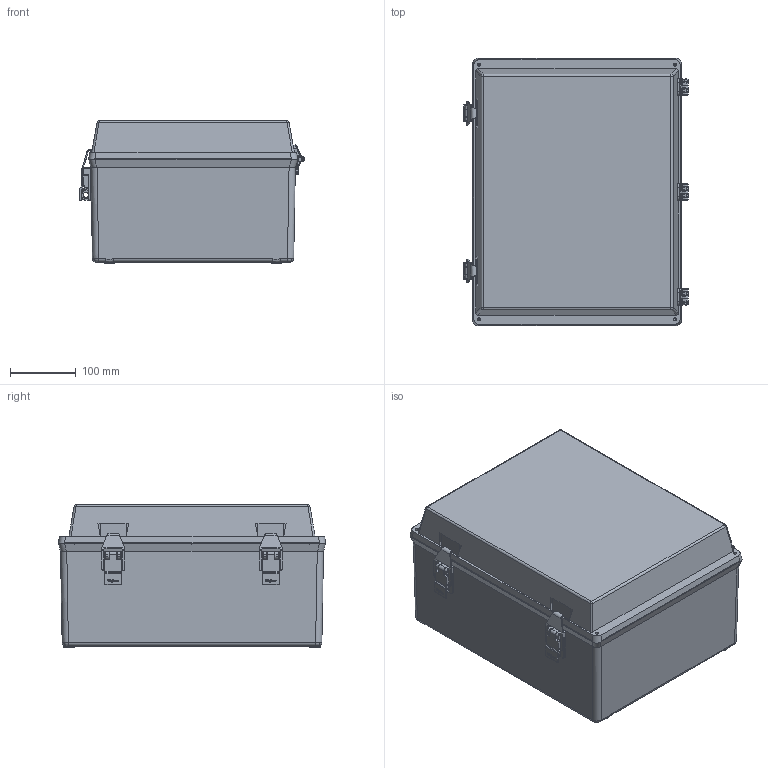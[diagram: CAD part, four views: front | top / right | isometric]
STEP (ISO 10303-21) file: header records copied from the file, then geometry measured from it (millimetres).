
FILE_DESCRIPTION (( 'STEP AP203' ), '1' );
FILE_NAME ('a16128jfgqrr.STEP', '2019-12-20T16:09:40', ( '' ), ( '' ), 'SwSTEP 2.0', 'SolidWorks 2016', '' );
FILE_SCHEMA (( 'CONFIG_CONTROL_DESIGN' ));
Length unit declared in the file: inch
Products named in the file (15): 87789763; 23249001; 87789765; 87789761; 89102462_WITH HOLE; 23247001; 87923492_WITH HOLES; 14241007_14241007; 87923476_WITH HOLE; 87789767; 89102475; 23149001; a16128jfgqrr; 89102515_BBD; 23248001
Assembly tree (18 placements, depth 4):
  a16128jfgqrr
    89102515_BBD
      87923492_WITH HOLES
      89102462_WITH HOLE
        87923476_WITH HOLE
        89102475
      23249001  x3
        23247001
        23248001
        23149001
      87789767  x2
        87789765
        87789763
        87789761
        14241007_14241007
Bounding box: 342.21 x 407 x 216.15 mm (x, y, z)
Volume: 2204200.1 mm3; surface area: 1145707.7 mm2
Topology: 26 solids, 26 shells, 3341 faces, 8676 edges, 5333 vertices
Faces by surface type: plane 1161, cylinder 1067, bspline 590, torus 319, cone 148, sphere 56
Entity records: 62298 total; most frequent: CARTESIAN_POINT 19300, ORIENTED_EDGE 9280, DIRECTION 7894, EDGE_CURVE 4640, VERTEX_POINT 2901, AXIS2_PLACEMENT_3D 2901, LINE 2092, VECTOR 2092
